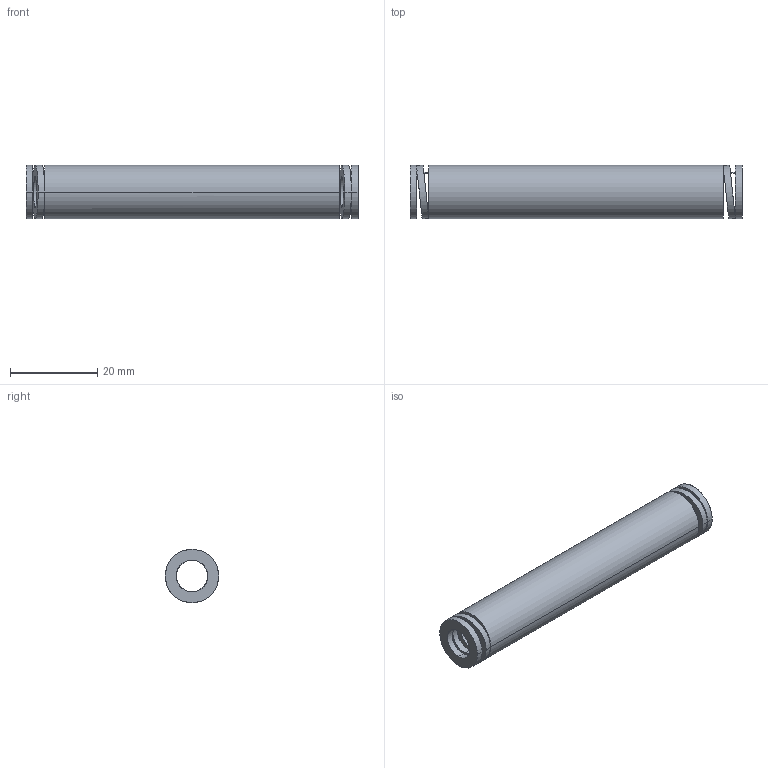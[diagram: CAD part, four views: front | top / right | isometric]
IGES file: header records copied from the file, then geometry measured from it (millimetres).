
Start section: START RECORD GO HERE.
Global section: file name: 392-B13-076.igs; native system: DASSAULT SYSTEMES CATIA V5 R20 - www.3ds.com; preprocessor: CATIA Version 5 Release 20 ; author: Utente; organization: NB04-ASUS; date: 20210812.144452; units: millimetre
Bounding box: 76 x 12.29 x 12.2 mm (x, y, z)
Surface area: 5235.3 mm2 (no closed solid volume)
Topology: 0 solids, 0 shells, 38 faces, 184 edges, 184 vertices
Faces by surface type: revolution 28, plane 10
